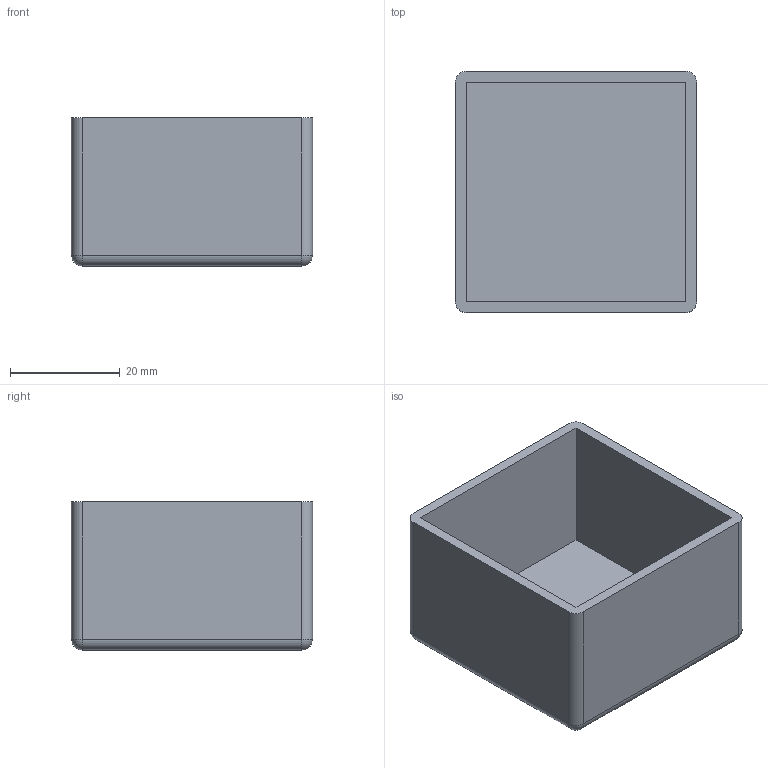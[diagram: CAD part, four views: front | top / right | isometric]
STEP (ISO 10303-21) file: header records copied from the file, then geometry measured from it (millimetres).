
FILE_DESCRIPTION(('STEP AP214'),'1');
FILE_NAME('EC40.stp','2017-07-24T04:46:57',(' '),(' '),'Spatial InterOp 3D',' ',' ');
FILE_SCHEMA(('automotive_design'));
Length unit declared in the file: millimetre
Products named in the file (1): EC40
Bounding box: 44 x 44 x 27 mm (x, y, z)
Volume: 12033.6 mm3; surface area: 12374.5 mm2
Topology: 1 solids, 1 shells, 23 faces, 52 edges, 28 vertices
Faces by surface type: plane 11, cylinder 8, sphere 4
Entity records: 802 total; most frequent: DIRECTION 112, CARTESIAN_POINT 100, ORIENTED_EDGE 96, EDGE_CURVE 48, AXIS2_PLACEMENT_3D 40, LINE 32, VECTOR 32, VERTEX_POINT 28
